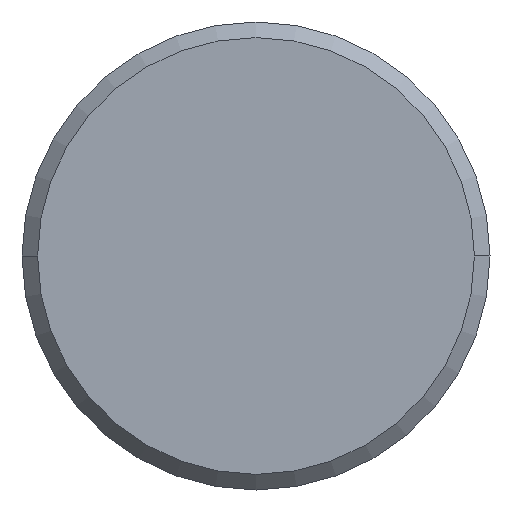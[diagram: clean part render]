
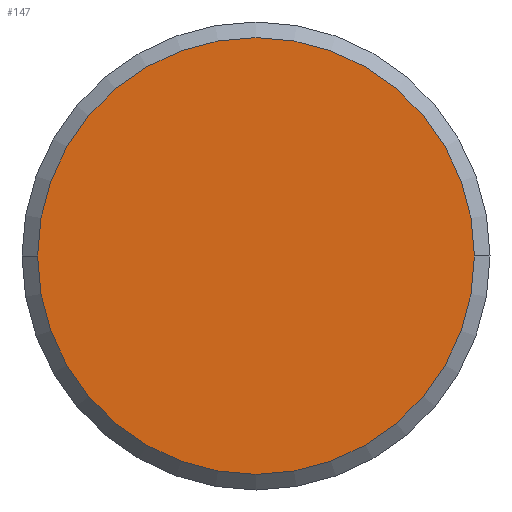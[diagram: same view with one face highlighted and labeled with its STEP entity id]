
A CAD part, front view. The second image highlights one B-rep face of the part: STEP entity #147.
In plain terms, the highlighted planar face has unit normal (0, -1, 0).
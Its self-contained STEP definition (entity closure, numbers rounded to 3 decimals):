
#87 = VERTEX_POINT( '', #218 );
#91 = EDGE_CURVE( '', #123, #87, #222, .T. );
#123 = VERTEX_POINT( '', #256 );
#147 = ADVANCED_FACE( '', ( #284 ), #285, .T. );
#155 = EDGE_CURVE( '', #87, #123, #293, .T. );
#218 = CARTESIAN_POINT( '', ( 14., -30., 0. ) );
#222 = CIRCLE( '', #361, 14. );
#256 = CARTESIAN_POINT( '', ( -14., -30., 0. ) );
#284 = FACE_OUTER_BOUND( '', #441, .T. );
#285 = PLANE( '', #442 );
#293 = CIRCLE( '', #454, 14. );
#361 = AXIS2_PLACEMENT_3D( '', #521, #522, #523 );
#441 = EDGE_LOOP( '', ( #594, #595 ) );
#442 = AXIS2_PLACEMENT_3D( '', #596, #597, #598 );
#454 = AXIS2_PLACEMENT_3D( '', #603, #604, #605 );
#521 = CARTESIAN_POINT( '', ( 0., -30., 0. ) );
#522 = DIRECTION( '', ( 0., -1., 0. ) );
#523 = DIRECTION( '', ( -1., 0., 0. ) );
#594 = ORIENTED_EDGE( '', *, *, #91, .T. );
#595 = ORIENTED_EDGE( '', *, *, #155, .T. );
#596 = CARTESIAN_POINT( '', ( -7., -30., 0. ) );
#597 = DIRECTION( '', ( 0., -1., 0. ) );
#598 = DIRECTION( '', ( -1., 0., 0. ) );
#603 = CARTESIAN_POINT( '', ( 0., -30., 0. ) );
#604 = DIRECTION( '', ( 0., -1., 0. ) );
#605 = DIRECTION( '', ( -1., 0., 0. ) );
